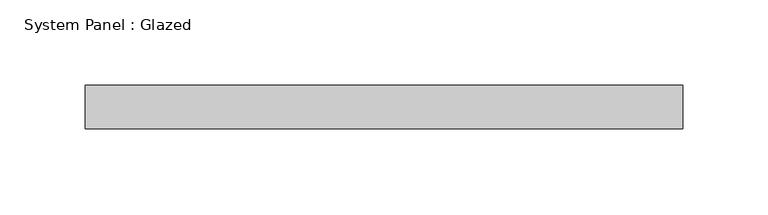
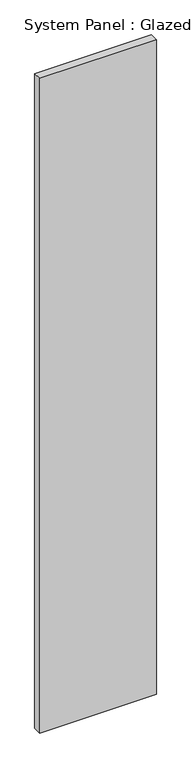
"""IFC4 building model written with IfcOpenShell, lengths in millimetres: plate geometry, System Panel : Glazed."""

import ifcopenshell
import ifcopenshell.guid

model = None  # the IFC model being written
_history = None  # IfcOwnerHistory: only IFC2X3 demands one
_inside = {}  # id of a spatial element -> (the spatial element, [elements in it])
_under = {}  # id of a project, library or spatial element -> (it, [spatial elements below it])
_declared = {}  # id of a project -> (the project, [libraries it declares])
_typed = {}  # id of a type object -> (the type object, [elements of that type])
_made_of = {}  # id of a material, layer set ... -> (it, [elements and type objects made of it])


def new_model(schema):
    """Start an empty IFC model of exactly this schema.

    Asked for "IFC4X3", IfcOpenShell would pick the latest addendum, in which some entities
    have other attributes; the version numbers below select the first issue.
    IFC2X3 requires an IfcOwnerHistory on every rooted entity: one is made here for all.
    """
    global model, _history
    if schema == "IFC4X3":
        model = ifcopenshell.file(schema_version=(4, 3, 0, 0))
    else:
        model = ifcopenshell.file(schema=schema)
    _inside.clear()
    _under.clear()
    _declared.clear()
    _typed.clear()
    _made_of.clear()
    _history = None
    if model.schema == "IFC2X3":
        org = make("IfcOrganization", Name="unknown")
        user = make(
            "IfcPersonAndOrganization",
            ThePerson=make("IfcPerson", FamilyName="unknown"),
            TheOrganization=org,
        )
        app = make(
            "IfcApplication",
            ApplicationDeveloper=org,
            Version="unknown",
            ApplicationFullName="unknown",
            ApplicationIdentifier="unknown",
        )
        _history = make(
            "IfcOwnerHistory",
            OwningUser=user,
            OwningApplication=app,
            ChangeAction="ADDED",
            CreationDate=0,
        )
    return model


def make(cls, **values):
    """One entity of the class cls with the attributes given. An attribute that is None is left unset."""
    return model.create_entity(
        cls, **{name: value for name, value in values.items() if value is not None}
    )


def rooted(cls, **values):
    """An entity with a GlobalId (a new one), such as an element, a storey or a relation."""
    return make(cls, GlobalId=ifcopenshell.guid.new(), OwnerHistory=_history, **values)


def si_unit(unit_type, name, prefix=None):
    """IfcSIUnit, for example si_unit("LENGTHUNIT", "METRE", prefix="MILLI")."""
    return make("IfcSIUnit", UnitType=unit_type, Prefix=prefix, Name=name)


def assignment(units):
    """IfcUnitAssignment: the units of a project."""
    return None if units is None else make("IfcUnitAssignment", Units=units)


def point(xyz):
    """IfcCartesianPoint."""
    return None if xyz is None else make("IfcCartesianPoint", Coordinates=xyz)


def direction(xyz):
    """IfcDirection."""
    return None if xyz is None else make("IfcDirection", DirectionRatios=xyz)


def frame(location, z_axis=None, x_axis=None):
    """IfcAxis2Placement3D, a coordinate frame: its origin and axes. An axis left out is left unset."""
    return make(
        "IfcAxis2Placement3D",
        Location=point(location),
        Axis=direction(z_axis),
        RefDirection=direction(x_axis),
    )


def origin():
    """The frame at (0, 0, 0) with its axes left unset."""
    return frame((0.0, 0.0, 0.0))


def origin_with_axes():
    """The frame at (0, 0, 0) with the z axis (0, 0, 1) and the x axis (1, 0, 0) written out."""
    return frame((0.0, 0.0, 0.0), z_axis=(0.0, 0.0, 1.0), x_axis=(1.0, 0.0, 0.0))


def place(relative_to, where):
    """IfcLocalPlacement: puts the frame where relative to a parent placement (None: the world)."""
    return make(
        "IfcLocalPlacement", PlacementRelTo=relative_to, RelativePlacement=where
    )


def context(
    kind, dimensions, precision=None, world=None, true_north=None, identifier=None
):
    """IfcGeometricRepresentationContext, for example the 3D "Model" context."""
    return make(
        "IfcGeometricRepresentationContext",
        ContextIdentifier=identifier,
        ContextType=kind,
        CoordinateSpaceDimension=dimensions,
        Precision=precision,
        WorldCoordinateSystem=world,
        TrueNorth=true_north,
    )


def project(units=None, contexts=None):
    """IfcProject with its units and contexts."""
    return rooted(
        "IfcProject",
        Name="project",
        RepresentationContexts=contexts,
        UnitsInContext=assignment(units),
    )


def spatial(cls, under=None, at=None, **own):
    """A site, building, storey or space (cls), placed at a placement, below another one or the project."""
    s = rooted(cls, ObjectPlacement=at, **own)
    if under is not None:
        _under.setdefault(under.id(), (under, []))[1].append(s)
    return s


def polyline(points):
    """IfcPolyline through the points."""
    return make("IfcPolyline", Points=[point(p) for p in points])


def outline(outer, holes=None, kind="AREA"):
    """IfcArbitraryClosedProfileDef: a profile drawn as a closed curve; with holes, ...WithVoids."""
    if holes is None:
        return make("IfcArbitraryClosedProfileDef", ProfileType=kind, OuterCurve=outer)
    return make(
        "IfcArbitraryProfileDefWithVoids",
        ProfileType=kind,
        OuterCurve=outer,
        InnerCurves=holes,
    )


def extrude(swept, where, along, depth):
    """IfcExtrudedAreaSolid: the profile swept, set in the frame where, extruded along a direction by depth."""
    return make(
        "IfcExtrudedAreaSolid",
        SweptArea=swept,
        Position=where,
        ExtrudedDirection=direction(along),
        Depth=depth,
    )


def shape(context_of_items, identifier, shape_type, items):
    """IfcShapeRepresentation: the items that make up one representation, for example the "Body"."""
    return make(
        "IfcShapeRepresentation",
        ContextOfItems=context_of_items,
        RepresentationIdentifier=identifier,
        RepresentationType=shape_type,
        Items=items,
    )


def source(mapping_origin, context_of_items, identifier, shape_type, items):
    """IfcRepresentationMap: a shape defined once, which mapped items show again and again."""
    return make(
        "IfcRepresentationMap",
        MappingOrigin=mapping_origin,
        MappedRepresentation=shape(context_of_items, identifier, shape_type, items),
    )


def transform(
    local_origin,
    x_axis=None,
    y_axis=None,
    z_axis=None,
    scale=None,
    scale2=None,
    scale3=None,
    uniform=True,
):
    """IfcCartesianTransformationOperator3D, or its non-uniform kind. x_axis, y_axis, z_axis: its Axis1, 2, 3."""
    if uniform:
        return make(
            "IfcCartesianTransformationOperator3D",
            Axis1=direction(x_axis),
            Axis2=direction(y_axis),
            LocalOrigin=point(local_origin),
            Scale=scale,
            Axis3=direction(z_axis),
        )
    return make(
        "IfcCartesianTransformationOperator3DnonUniform",
        Axis1=direction(x_axis),
        Axis2=direction(y_axis),
        LocalOrigin=point(local_origin),
        Scale=scale,
        Axis3=direction(z_axis),
        Scale2=scale2,
        Scale3=scale3,
    )


def mapped(mapping_source, mapping_target):
    """IfcMappedItem: shows the shape of a source again, moved by a transform."""
    return make(
        "IfcMappedItem", MappingSource=mapping_source, MappingTarget=mapping_target
    )


def made_of(thing, what):
    """Note that an element or type object is made of a material, layer set ...; save() writes the relation."""
    if what is not None:
        _made_of.setdefault(what.id(), (what, []))[1].append(thing)
    return thing


def element(
    cls,
    number,
    at=None,
    inside=None,
    cuts=None,
    type_object=None,
    material=None,
    context=None,
    identifier="Body",
    shape_type=None,
    held_by="IfcProductDefinitionShape",
    body=None,
    shapes=None,
    **own,
):
    """One element of the class cls, such as IfcWall. Its Tag is "e" and its number.

    at: its placement. inside: the storey or other place that contains it. cuts: it is an
    opening in that element (IfcRelVoidsElement). A single representation is given by context,
    identifier, shape_type and body (its items); several are given by shapes. held_by: the class
    of the entity that holds the representations. save() writes the other relations.
    """
    e = rooted(cls, Tag="e%d" % number, ObjectPlacement=at, **own)
    if body is not None:
        shapes = [shape(context, identifier, shape_type, body)]
    if shapes is not None:
        e.Representation = make(held_by, Representations=shapes)
    if inside is not None:
        _inside.setdefault(inside.id(), (inside, []))[1].append(e)
    if cuts is not None:
        rooted(
            "IfcRelVoidsElement", RelatingBuildingElement=cuts, RelatedOpeningElement=e
        )
    if type_object is not None:
        _typed.setdefault(type_object.id(), (type_object, []))[1].append(e)
    return made_of(e, material)


def aggregate(whole, parts):
    """IfcRelAggregates: a whole, such as a stair, and the parts it consists of."""
    return rooted("IfcRelAggregates", RelatingObject=whole, RelatedObjects=parts)


def save(model, path):
    """Write the relations noted so far, then the file.

    IfcRelAggregates (storeys below a building ...), IfcRelContainedInSpatialStructure (elements
    in a storey), IfcRelDefinesByType, IfcRelAssociatesMaterial and IfcRelDeclares: one each for
    every whole, place, type object, material and project.
    """
    for whole, parts in _under.values():
        aggregate(whole, parts)
    for where, things in _inside.values():
        rooted(
            "IfcRelContainedInSpatialStructure",
            RelatedElements=things,
            RelatingStructure=where,
        )
    for kind, things in _typed.values():
        rooted("IfcRelDefinesByType", RelatedObjects=things, RelatingType=kind)
    for what, things in _made_of.values():
        rooted("IfcRelAssociatesMaterial", RelatedObjects=things, RelatingMaterial=what)
    for by, libraries in _declared.values():
        rooted("IfcRelDeclares", RelatingContext=by, RelatedDefinitions=libraries)
    model.write(path)


def system_panel_glazed_d4f16d98(model_context):
    return source(origin(), model_context, "Body", "SweptSolid", [
        extrude(outline(polyline([(174.625, -44.45), (-174.625, -44.45), (-174.625, -19.05), (174.625, -19.05), (174.625, -44.45)])), origin_with_axes(), (0.0, 0.0, 1.0), 2070.1),
    ])


if __name__ == "__main__":
    model = new_model("IFC4")
    model_context = context("Model", 3, world=origin())
    ifc_project = project(units=[si_unit("LENGTHUNIT", "METRE", prefix="MILLI")], contexts=[model_context])
    site = spatial("IfcSite", under=ifc_project)
    building = spatial("IfcBuilding", under=site)
    placement = place(None, origin())
    system_panel_glazed_shape = system_panel_glazed_d4f16d98(model_context)
    element("IfcPlate", 1, ObjectType="System Panel : Glazed", at=placement, inside=building, context=model_context, shape_type="MappedRepresentation", body=[
        mapped(system_panel_glazed_shape, transform((0.0, 0.0, 0.0), x_axis=(1.0, 0.0, 0.0), y_axis=(0.0, 1.0, 0.0), z_axis=(0.0, 0.0, 1.0))),
    ])
    save(model, "model.ifc")
